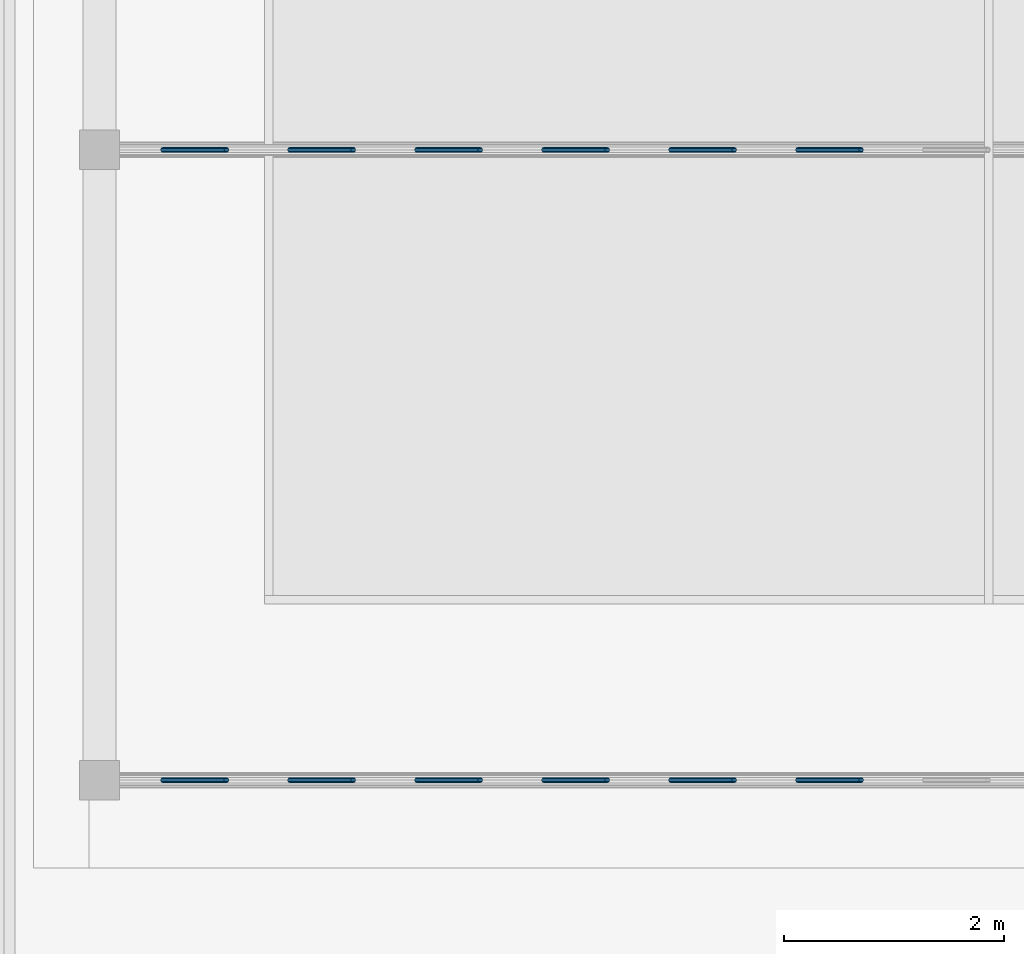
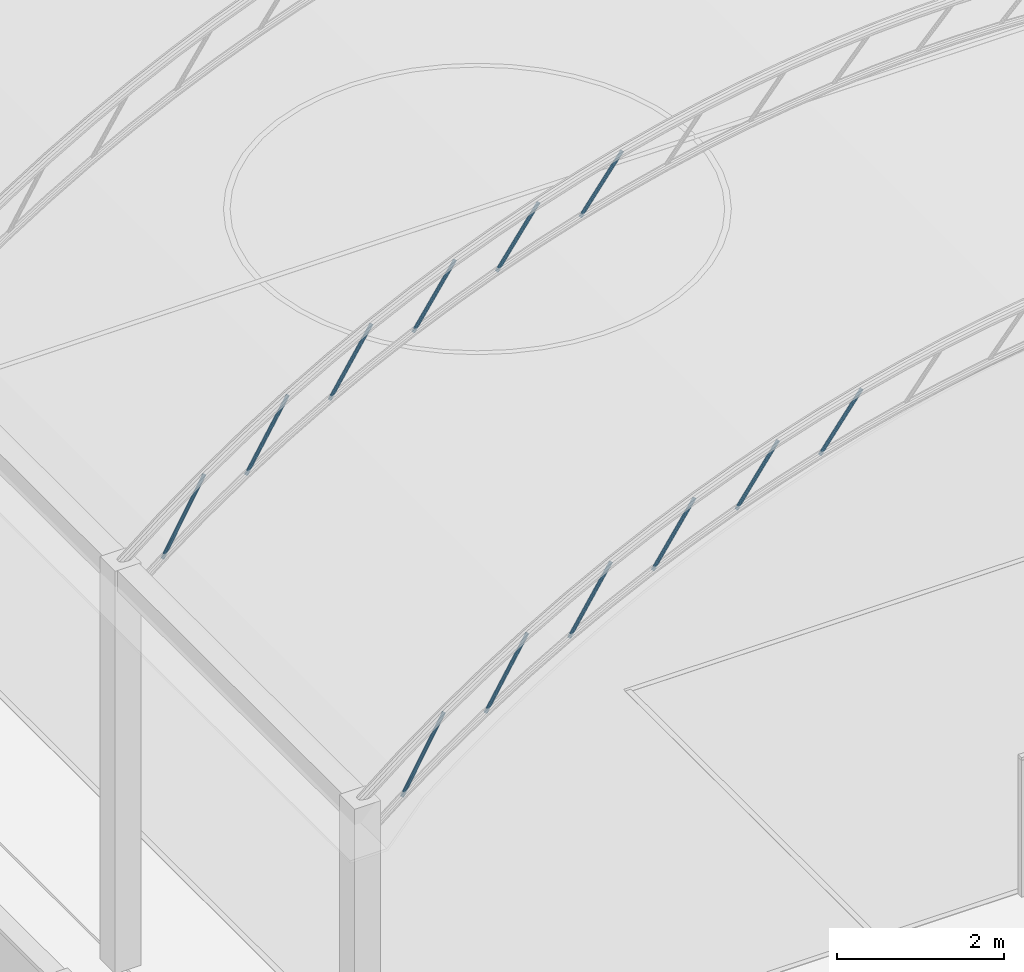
# One storey, part 16 of 177: 12 beams.
"""IFC4 building model written with IfcOpenShell, lengths in metres."""

import ifcopenshell
import ifcopenshell.guid

model = None  # the IFC model being written
_history = None  # IfcOwnerHistory: only IFC2X3 demands one
_inside = {}  # id of a spatial element -> (the spatial element, [elements in it])
_under = {}  # id of a project, library or spatial element -> (it, [spatial elements below it])
_declared = {}  # id of a project -> (the project, [libraries it declares])
_typed = {}  # id of a type object -> (the type object, [elements of that type])
_made_of = {}  # id of a material, layer set ... -> (it, [elements and type objects made of it])


def new_model(schema):
    """Start an empty IFC model of exactly this schema.

    Asked for "IFC4X3", IfcOpenShell would pick the latest addendum, in which some entities
    have other attributes; the version numbers below select the first issue.
    IFC2X3 requires an IfcOwnerHistory on every rooted entity: one is made here for all.
    """
    global model, _history
    if schema == "IFC4X3":
        model = ifcopenshell.file(schema_version=(4, 3, 0, 0))
    else:
        model = ifcopenshell.file(schema=schema)
    _inside.clear()
    _under.clear()
    _declared.clear()
    _typed.clear()
    _made_of.clear()
    _history = None
    if model.schema == "IFC2X3":
        org = make("IfcOrganization", Name="unknown")
        user = make(
            "IfcPersonAndOrganization",
            ThePerson=make("IfcPerson", FamilyName="unknown"),
            TheOrganization=org,
        )
        app = make(
            "IfcApplication",
            ApplicationDeveloper=org,
            Version="unknown",
            ApplicationFullName="unknown",
            ApplicationIdentifier="unknown",
        )
        _history = make(
            "IfcOwnerHistory",
            OwningUser=user,
            OwningApplication=app,
            ChangeAction="ADDED",
            CreationDate=0,
        )
    return model


def make(cls, **values):
    """One entity of the class cls with the attributes given. An attribute that is None is left unset."""
    return model.create_entity(
        cls, **{name: value for name, value in values.items() if value is not None}
    )


def rooted(cls, **values):
    """An entity with a GlobalId (a new one), such as an element, a storey or a relation."""
    return make(cls, GlobalId=ifcopenshell.guid.new(), OwnerHistory=_history, **values)


def si_unit(unit_type, name, prefix=None):
    """IfcSIUnit, for example si_unit("LENGTHUNIT", "METRE", prefix="MILLI")."""
    return make("IfcSIUnit", UnitType=unit_type, Prefix=prefix, Name=name)


def assignment(units):
    """IfcUnitAssignment: the units of a project."""
    return None if units is None else make("IfcUnitAssignment", Units=units)


def point(xyz):
    """IfcCartesianPoint."""
    return None if xyz is None else make("IfcCartesianPoint", Coordinates=xyz)


def direction(xyz):
    """IfcDirection."""
    return None if xyz is None else make("IfcDirection", DirectionRatios=xyz)


def frame(location, z_axis=None, x_axis=None):
    """IfcAxis2Placement3D, a coordinate frame: its origin and axes. An axis left out is left unset."""
    return make(
        "IfcAxis2Placement3D",
        Location=point(location),
        Axis=direction(z_axis),
        RefDirection=direction(x_axis),
    )


def origin():
    """The frame at (0, 0, 0) with its axes left unset."""
    return frame((0.0, 0.0, 0.0))


def origin_with_axes():
    """The frame at (0, 0, 0) with the z axis (0, 0, 1) and the x axis (1, 0, 0) written out."""
    return frame((0.0, 0.0, 0.0), z_axis=(0.0, 0.0, 1.0), x_axis=(1.0, 0.0, 0.0))


def place(relative_to, where):
    """IfcLocalPlacement: puts the frame where relative to a parent placement (None: the world)."""
    return make(
        "IfcLocalPlacement", PlacementRelTo=relative_to, RelativePlacement=where
    )


def context(
    kind, dimensions, precision=None, world=None, true_north=None, identifier=None
):
    """IfcGeometricRepresentationContext, for example the 3D "Model" context."""
    return make(
        "IfcGeometricRepresentationContext",
        ContextIdentifier=identifier,
        ContextType=kind,
        CoordinateSpaceDimension=dimensions,
        Precision=precision,
        WorldCoordinateSystem=world,
        TrueNorth=true_north,
    )


def subcontext(parent, identifier, kind, view, scale=None):
    """IfcGeometricRepresentationSubContext, for example "Body" below "Model"."""
    return make(
        "IfcGeometricRepresentationSubContext",
        ContextIdentifier=identifier,
        ContextType=kind,
        ParentContext=parent,
        TargetScale=scale,
        TargetView=view,
    )


def project(units=None, contexts=None):
    """IfcProject with its units and contexts."""
    return rooted(
        "IfcProject",
        Name="project",
        RepresentationContexts=contexts,
        UnitsInContext=assignment(units),
    )


def spatial(cls, under=None, at=None, **own):
    """A site, building, storey or space (cls), placed at a placement, below another one or the project."""
    s = rooted(cls, ObjectPlacement=at, **own)
    if under is not None:
        _under.setdefault(under.id(), (under, []))[1].append(s)
    return s


def point_list(points):
    """IfcCartesianPointList2D or 3D."""
    cls = (
        "IfcCartesianPointList2D" if len(points[0]) == 2 else "IfcCartesianPointList3D"
    )
    return make(cls, CoordList=points)


def triangles(points, corners, closed=None, point_numbers=None):
    """IfcTriangulatedFaceSet: each triangle names its three corners, points numbered from 1."""
    return make(
        "IfcTriangulatedFaceSet",
        Coordinates=point_list(points),
        Closed=closed,
        CoordIndex=corners,
        PnIndex=point_numbers,
    )


def shape(context_of_items, identifier, shape_type, items):
    """IfcShapeRepresentation: the items that make up one representation, for example the "Body"."""
    return make(
        "IfcShapeRepresentation",
        ContextOfItems=context_of_items,
        RepresentationIdentifier=identifier,
        RepresentationType=shape_type,
        Items=items,
    )


def made_of(thing, what):
    """Note that an element or type object is made of a material, layer set ...; save() writes the relation."""
    if what is not None:
        _made_of.setdefault(what.id(), (what, []))[1].append(thing)
    return thing


def element(
    cls,
    number,
    at=None,
    inside=None,
    cuts=None,
    type_object=None,
    material=None,
    context=None,
    identifier="Body",
    shape_type=None,
    held_by="IfcProductDefinitionShape",
    body=None,
    shapes=None,
    **own,
):
    """One element of the class cls, such as IfcWall. Its Tag is "e" and its number.

    at: its placement. inside: the storey or other place that contains it. cuts: it is an
    opening in that element (IfcRelVoidsElement). A single representation is given by context,
    identifier, shape_type and body (its items); several are given by shapes. held_by: the class
    of the entity that holds the representations. save() writes the other relations.
    """
    e = rooted(cls, Tag="e%d" % number, ObjectPlacement=at, **own)
    if body is not None:
        shapes = [shape(context, identifier, shape_type, body)]
    if shapes is not None:
        e.Representation = make(held_by, Representations=shapes)
    if inside is not None:
        _inside.setdefault(inside.id(), (inside, []))[1].append(e)
    if cuts is not None:
        rooted(
            "IfcRelVoidsElement", RelatingBuildingElement=cuts, RelatedOpeningElement=e
        )
    if type_object is not None:
        _typed.setdefault(type_object.id(), (type_object, []))[1].append(e)
    return made_of(e, material)


def aggregate(whole, parts):
    """IfcRelAggregates: a whole, such as a stair, and the parts it consists of."""
    return rooted("IfcRelAggregates", RelatingObject=whole, RelatedObjects=parts)


def save(model, path):
    """Write the relations noted so far, then the file.

    IfcRelAggregates (storeys below a building ...), IfcRelContainedInSpatialStructure (elements
    in a storey), IfcRelDefinesByType, IfcRelAssociatesMaterial and IfcRelDeclares: one each for
    every whole, place, type object, material and project.
    """
    for whole, parts in _under.values():
        aggregate(whole, parts)
    for where, things in _inside.values():
        rooted(
            "IfcRelContainedInSpatialStructure",
            RelatedElements=things,
            RelatingStructure=where,
        )
    for kind, things in _typed.values():
        rooted("IfcRelDefinesByType", RelatedObjects=things, RelatingType=kind)
    for what, things in _made_of.values():
        rooted("IfcRelAssociatesMaterial", RelatedObjects=things, RelatingMaterial=what)
    for by, libraries in _declared.values():
        rooted("IfcRelDeclares", RelatingContext=by, RelatedDefinitions=libraries)
    model.write(path)


model = new_model("IFC4")

# Units and contexts
model_context = context("Model", 3, precision=1e-05, world=origin_with_axes())
body_context = subcontext(model_context, "Body", "Model", "MODEL_VIEW")
ifc_project = project(units=[si_unit("LENGTHUNIT", "METRE"), si_unit("AREAUNIT", "SQUARE_METRE"), si_unit("VOLUMEUNIT", "CUBIC_METRE"), si_unit("PLANEANGLEUNIT", "RADIAN")], contexts=[model_context])

# Site, building, storey
site_placement = place(None, origin_with_axes())
site = spatial("IfcSite", under=ifc_project, at=site_placement, Name="Predio Los Mangos - Morales, San Martín", CompositionType="ELEMENT")
building_placement = place(site_placement, origin())
building = spatial("IfcBuilding", under=site, at=building_placement, Name="Hogar de Refugio Temporal", CompositionType="ELEMENT")
storey_placement = place(building_placement, origin())
storey = spatial("IfcBuildingStorey", under=building, at=storey_placement, Name="NIVEL 1 (NPT +0.00)", CompositionType="ELEMENT", Elevation=0.0)

# Beams
beam_1_placement = place(storey_placement, origin())
element("IfcBeam", 1, at=beam_1_placement, inside=storey, Name="diag", ObjectType="Viga", PredefinedType="BEAM", context=body_context, shape_type="Tessellation", body=[
    triangles([(4.0666, 92.6217, 5.8202), (4.0586, 92.6125, 5.8247), (4.0557, 92.6, 5.8263), (4.0586, 92.5875, 5.8247), (4.0666, 92.5783, 5.8202), (4.0775, 92.575, 5.8141), (4.0884, 92.5783, 5.808), (4.0964, 92.5875, 5.8035), (4.0993, 92.6, 5.8018), (4.0964, 92.6125, 5.8035), (4.0884, 92.6217, 5.808), (4.0775, 92.625, 5.8141), (4.6441, 92.6217, 6.8469), (4.6361, 92.6125, 6.8514), (4.6332, 92.6, 6.8531), (4.6361, 92.5875, 6.8514), (4.6441, 92.5783, 6.8469), (4.655, 92.575, 6.8408), (4.6659, 92.5783, 6.8347), (4.6739, 92.5875, 6.8302), (4.6768, 92.6, 6.8286), (4.6739, 92.6125, 6.8302), (4.6659, 92.6217, 6.8347), (4.655, 92.625, 6.8408)], [[1, 13, 24], [1, 24, 12], [2, 14, 13], [2, 13, 1], [3, 15, 14], [3, 14, 2], [4, 16, 15], [4, 15, 3], [5, 17, 16], [5, 16, 4], [6, 18, 17], [6, 17, 5], [7, 19, 18], [7, 18, 6], [8, 20, 19], [8, 19, 7], [9, 21, 20], [9, 20, 8], [10, 22, 21], [10, 21, 9], [11, 23, 22], [11, 22, 10], [12, 24, 23], [12, 23, 11]]),
])
beam_2_placement = place(storey_placement, origin())
element("IfcBeam", 2, at=beam_2_placement, inside=storey, Name="diag", ObjectType="Viga", PredefinedType="BEAM", context=body_context, shape_type="Tessellation", body=[
    triangles([(5.2218, 92.6217, 6.6398), (5.2139, 92.6125, 6.6445), (5.2111, 92.6, 6.6462), (5.2139, 92.5875, 6.6445), (5.2218, 92.5783, 6.6398), (5.2325, 92.575, 6.6333), (5.2432, 92.5783, 6.6269), (5.2511, 92.5875, 6.6222), (5.2539, 92.6, 6.6205), (5.2511, 92.6125, 6.6222), (5.2432, 92.6217, 6.6269), (5.2325, 92.625, 6.6333), (5.7993, 92.6217, 7.6007), (5.7914, 92.6125, 7.6055), (5.7886, 92.6, 7.6072), (5.7914, 92.5875, 7.6055), (5.7993, 92.5783, 7.6007), (5.81, 92.575, 7.5943), (5.8207, 92.5783, 7.5879), (5.8286, 92.5875, 7.5832), (5.8314, 92.6, 7.5814), (5.8286, 92.6125, 7.5832), (5.8207, 92.6217, 7.5879), (5.81, 92.625, 7.5943)], [[1, 13, 24], [1, 24, 12], [2, 14, 13], [2, 13, 1], [3, 15, 14], [3, 14, 2], [4, 16, 15], [4, 15, 3], [5, 17, 16], [5, 16, 4], [6, 18, 17], [6, 17, 5], [7, 19, 18], [7, 18, 6], [8, 20, 19], [8, 19, 7], [9, 21, 20], [9, 20, 8], [10, 22, 21], [10, 21, 9], [11, 23, 22], [11, 22, 10], [12, 24, 23], [12, 23, 11]]),
])
beam_3_placement = place(storey_placement, origin())
element("IfcBeam", 3, at=beam_3_placement, inside=storey, Name="diag", ObjectType="Viga", PredefinedType="BEAM", context=body_context, shape_type="Tessellation", body=[
    triangles([(6.377, 92.6217, 7.3326), (6.3693, 92.6125, 7.3375), (6.3664, 92.6, 7.3393), (6.3693, 92.5875, 7.3375), (6.377, 92.5783, 7.3326), (6.3875, 92.575, 7.3259), (6.398, 92.5783, 7.3191), (6.4057, 92.5875, 7.3142), (6.4086, 92.6, 7.3124), (6.4057, 92.6125, 7.3142), (6.398, 92.6217, 7.3191), (6.3875, 92.625, 7.3259), (6.9545, 92.6217, 8.2366), (6.9468, 92.6125, 8.2415), (6.9439, 92.6, 8.2433), (6.9468, 92.5875, 8.2415), (6.9545, 92.5783, 8.2366), (6.965, 92.575, 8.2298), (6.9755, 92.5783, 8.2231), (6.9832, 92.5875, 8.2182), (6.9861, 92.6, 8.2164), (6.9832, 92.6125, 8.2182), (6.9755, 92.6217, 8.2231), (6.965, 92.625, 8.2298)], [[1, 13, 24], [1, 24, 12], [2, 14, 13], [2, 13, 1], [3, 15, 14], [3, 14, 2], [4, 16, 15], [4, 15, 3], [5, 17, 16], [5, 16, 4], [6, 18, 17], [6, 17, 5], [7, 19, 18], [7, 18, 6], [8, 20, 19], [8, 19, 7], [9, 21, 20], [9, 20, 8], [10, 22, 21], [10, 21, 9], [11, 23, 22], [11, 22, 10], [12, 24, 23], [12, 23, 11]]),
])
beam_4_placement = place(storey_placement, origin())
element("IfcBeam", 4, at=beam_4_placement, inside=storey, Name="diag", ObjectType="Viga", PredefinedType="BEAM", context=body_context, shape_type="Tessellation", body=[
    triangles([(7.5321, 92.6217, 7.9148), (7.5246, 92.6125, 7.9199), (7.5218, 92.6, 7.9218), (7.5246, 92.5875, 7.9199), (7.5321, 92.5783, 7.9148), (7.5425, 92.575, 7.9077), (7.5529, 92.5783, 7.9007), (7.5604, 92.5875, 7.8956), (7.5632, 92.6, 7.8937), (7.5604, 92.6125, 7.8956), (7.5529, 92.6217, 7.9007), (7.5425, 92.625, 7.9077), (8.1096, 92.6217, 8.7679), (8.1021, 92.6125, 8.7731), (8.0993, 92.6, 8.7749), (8.1021, 92.5875, 8.7731), (8.1096, 92.5783, 8.7679), (8.12, 92.575, 8.7609), (8.1304, 92.5783, 8.7539), (8.1379, 92.5875, 8.7488), (8.1407, 92.6, 8.7469), (8.1379, 92.6125, 8.7488), (8.1304, 92.6217, 8.7539), (8.12, 92.625, 8.7609)], [[1, 13, 24], [1, 24, 12], [2, 14, 13], [2, 13, 1], [3, 15, 14], [3, 14, 2], [4, 16, 15], [4, 15, 3], [5, 17, 16], [5, 16, 4], [6, 18, 17], [6, 17, 5], [7, 19, 18], [7, 18, 6], [8, 20, 19], [8, 19, 7], [9, 21, 20], [9, 20, 8], [10, 22, 21], [10, 21, 9], [11, 23, 22], [11, 22, 10], [12, 24, 23], [12, 23, 11]]),
])
beam_5_placement = place(storey_placement, origin())
element("IfcBeam", 5, at=beam_5_placement, inside=storey, Name="diag", ObjectType="Viga", PredefinedType="BEAM", context=body_context, shape_type="Tessellation", body=[
    triangles([(8.6873, 92.6217, 8.3978), (8.6799, 92.6125, 8.4031), (8.6772, 92.6, 8.405), (8.6799, 92.5875, 8.4031), (8.6873, 92.5783, 8.3978), (8.6975, 92.575, 8.3905), (8.7077, 92.5783, 8.3832), (8.7151, 92.5875, 8.3779), (8.7178, 92.6, 8.3759), (8.7151, 92.6125, 8.3779), (8.7077, 92.6217, 8.3832), (8.6975, 92.625, 8.3905), (9.2648, 92.6217, 9.2047), (9.2574, 92.6125, 9.21), (9.2547, 92.6, 9.2119), (9.2574, 92.5875, 9.21), (9.2648, 92.5783, 9.2047), (9.275, 92.575, 9.1974), (9.2852, 92.5783, 9.1901), (9.2926, 92.5875, 9.1848), (9.2953, 92.6, 9.1828), (9.2926, 92.6125, 9.1848), (9.2852, 92.6217, 9.1901), (9.275, 92.625, 9.1974)], [[1, 13, 24], [1, 24, 12], [2, 14, 13], [2, 13, 1], [3, 15, 14], [3, 14, 2], [4, 16, 15], [4, 15, 3], [5, 17, 16], [5, 16, 4], [6, 18, 17], [6, 17, 5], [7, 19, 18], [7, 18, 6], [8, 20, 19], [8, 19, 7], [9, 21, 20], [9, 20, 8], [10, 22, 21], [10, 21, 9], [11, 23, 22], [11, 22, 10], [12, 24, 23], [12, 23, 11]]),
])
beam_6_placement = place(storey_placement, origin())
element("IfcBeam", 6, at=beam_6_placement, inside=storey, Name="diag", ObjectType="Viga", PredefinedType="BEAM", context=body_context, shape_type="Tessellation", body=[
    triangles([(9.8425, 92.6217, 8.79), (9.8352, 92.6125, 8.7955), (9.8326, 92.6, 8.7975), (9.8352, 92.5875, 8.7955), (9.8425, 92.5783, 8.79), (9.8525, 92.575, 8.7824), (9.8625, 92.5783, 8.7749), (9.8698, 92.5875, 8.7694), (9.8724, 92.6, 8.7674), (9.8698, 92.6125, 8.7694), (9.8625, 92.6217, 8.7749), (9.8525, 92.625, 8.7824), (10.42, 92.6217, 9.5539), (10.4127, 92.6125, 9.5594), (10.4101, 92.6, 9.5614), (10.4127, 92.5875, 9.5594), (10.42, 92.5783, 9.5539), (10.43, 92.575, 9.5463), (10.44, 92.5783, 9.5388), (10.4473, 92.5875, 9.5333), (10.4499, 92.6, 9.5313), (10.4473, 92.6125, 9.5333), (10.44, 92.6217, 9.5388), (10.43, 92.625, 9.5463)], [[1, 13, 24], [1, 24, 12], [2, 14, 13], [2, 13, 1], [3, 15, 14], [3, 14, 2], [4, 16, 15], [4, 15, 3], [5, 17, 16], [5, 16, 4], [6, 18, 17], [6, 17, 5], [7, 19, 18], [7, 18, 6], [8, 20, 19], [8, 19, 7], [9, 21, 20], [9, 20, 8], [10, 22, 21], [10, 21, 9], [11, 23, 22], [11, 22, 10], [12, 24, 23], [12, 23, 11]]),
])
beam_7_placement = place(storey_placement, origin())
element("IfcBeam", 7, at=beam_7_placement, inside=storey, Name="diag", ObjectType="Viga", PredefinedType="BEAM", context=body_context, shape_type="Tessellation", body=[
    triangles([(4.0666, 98.355, 5.8202), (4.0586, 98.3458, 5.8247), (4.0557, 98.3333, 5.8263), (4.0586, 98.3208, 5.8247), (4.0666, 98.3117, 5.8202), (4.0775, 98.3083, 5.8141), (4.0884, 98.3117, 5.808), (4.0964, 98.3208, 5.8035), (4.0993, 98.3333, 5.8018), (4.0964, 98.3458, 5.8035), (4.0884, 98.355, 5.808), (4.0775, 98.3583, 5.8141), (4.6441, 98.355, 6.8469), (4.6361, 98.3458, 6.8514), (4.6332, 98.3333, 6.8531), (4.6361, 98.3208, 6.8514), (4.6441, 98.3117, 6.8469), (4.655, 98.3083, 6.8408), (4.6659, 98.3117, 6.8347), (4.6739, 98.3208, 6.8302), (4.6768, 98.3333, 6.8286), (4.6739, 98.3458, 6.8302), (4.6659, 98.355, 6.8347), (4.655, 98.3583, 6.8408)], [[1, 13, 24], [1, 24, 12], [2, 14, 13], [2, 13, 1], [3, 15, 14], [3, 14, 2], [4, 16, 15], [4, 15, 3], [5, 17, 16], [5, 16, 4], [6, 18, 17], [6, 17, 5], [7, 19, 18], [7, 18, 6], [8, 20, 19], [8, 19, 7], [9, 21, 20], [9, 20, 8], [10, 22, 21], [10, 21, 9], [11, 23, 22], [11, 22, 10], [12, 24, 23], [12, 23, 11]]),
])
beam_8_placement = place(storey_placement, origin())
element("IfcBeam", 8, at=beam_8_placement, inside=storey, Name="diag", ObjectType="Viga", PredefinedType="BEAM", context=body_context, shape_type="Tessellation", body=[
    triangles([(5.2218, 98.355, 6.6398), (5.2139, 98.3458, 6.6445), (5.2111, 98.3333, 6.6462), (5.2139, 98.3208, 6.6445), (5.2218, 98.3117, 6.6398), (5.2325, 98.3083, 6.6333), (5.2432, 98.3117, 6.6269), (5.2511, 98.3208, 6.6222), (5.2539, 98.3333, 6.6205), (5.2511, 98.3458, 6.6222), (5.2432, 98.355, 6.6269), (5.2325, 98.3583, 6.6333), (5.7993, 98.355, 7.6007), (5.7914, 98.3458, 7.6055), (5.7886, 98.3333, 7.6072), (5.7914, 98.3208, 7.6055), (5.7993, 98.3117, 7.6007), (5.81, 98.3083, 7.5943), (5.8207, 98.3117, 7.5879), (5.8286, 98.3208, 7.5832), (5.8314, 98.3333, 7.5814), (5.8286, 98.3458, 7.5832), (5.8207, 98.355, 7.5879), (5.81, 98.3583, 7.5943)], [[1, 13, 24], [1, 24, 12], [2, 14, 13], [2, 13, 1], [3, 15, 14], [3, 14, 2], [4, 16, 15], [4, 15, 3], [5, 17, 16], [5, 16, 4], [6, 18, 17], [6, 17, 5], [7, 19, 18], [7, 18, 6], [8, 20, 19], [8, 19, 7], [9, 21, 20], [9, 20, 8], [10, 22, 21], [10, 21, 9], [11, 23, 22], [11, 22, 10], [12, 24, 23], [12, 23, 11]]),
])
beam_9_placement = place(storey_placement, origin())
element("IfcBeam", 9, at=beam_9_placement, inside=storey, Name="diag", ObjectType="Viga", PredefinedType="BEAM", context=body_context, shape_type="Tessellation", body=[
    triangles([(6.377, 98.355, 7.3326), (6.3693, 98.3458, 7.3375), (6.3664, 98.3333, 7.3393), (6.3693, 98.3208, 7.3375), (6.377, 98.3117, 7.3326), (6.3875, 98.3083, 7.3259), (6.398, 98.3117, 7.3191), (6.4057, 98.3208, 7.3142), (6.4086, 98.3333, 7.3124), (6.4057, 98.3458, 7.3142), (6.398, 98.355, 7.3191), (6.3875, 98.3583, 7.3259), (6.9545, 98.355, 8.2366), (6.9468, 98.3458, 8.2415), (6.9439, 98.3333, 8.2433), (6.9468, 98.3208, 8.2415), (6.9545, 98.3117, 8.2366), (6.965, 98.3083, 8.2298), (6.9755, 98.3117, 8.2231), (6.9832, 98.3208, 8.2182), (6.9861, 98.3333, 8.2164), (6.9832, 98.3458, 8.2182), (6.9755, 98.355, 8.2231), (6.965, 98.3583, 8.2298)], [[1, 13, 24], [1, 24, 12], [2, 14, 13], [2, 13, 1], [3, 15, 14], [3, 14, 2], [4, 16, 15], [4, 15, 3], [5, 17, 16], [5, 16, 4], [6, 18, 17], [6, 17, 5], [7, 19, 18], [7, 18, 6], [8, 20, 19], [8, 19, 7], [9, 21, 20], [9, 20, 8], [10, 22, 21], [10, 21, 9], [11, 23, 22], [11, 22, 10], [12, 24, 23], [12, 23, 11]]),
])
beam_10_placement = place(storey_placement, origin())
element("IfcBeam", 10, at=beam_10_placement, inside=storey, Name="diag", ObjectType="Viga", PredefinedType="BEAM", context=body_context, shape_type="Tessellation", body=[
    triangles([(7.5321, 98.355, 7.9148), (7.5246, 98.3458, 7.9199), (7.5218, 98.3333, 7.9218), (7.5246, 98.3208, 7.9199), (7.5321, 98.3117, 7.9148), (7.5425, 98.3083, 7.9077), (7.5529, 98.3117, 7.9007), (7.5604, 98.3208, 7.8956), (7.5632, 98.3333, 7.8937), (7.5604, 98.3458, 7.8956), (7.5529, 98.355, 7.9007), (7.5425, 98.3583, 7.9077), (8.1096, 98.355, 8.7679), (8.1021, 98.3458, 8.7731), (8.0993, 98.3333, 8.7749), (8.1021, 98.3208, 8.7731), (8.1096, 98.3117, 8.7679), (8.12, 98.3083, 8.7609), (8.1304, 98.3117, 8.7539), (8.1379, 98.3208, 8.7488), (8.1407, 98.3333, 8.7469), (8.1379, 98.3458, 8.7488), (8.1304, 98.355, 8.7539), (8.12, 98.3583, 8.7609)], [[1, 13, 24], [1, 24, 12], [2, 14, 13], [2, 13, 1], [3, 15, 14], [3, 14, 2], [4, 16, 15], [4, 15, 3], [5, 17, 16], [5, 16, 4], [6, 18, 17], [6, 17, 5], [7, 19, 18], [7, 18, 6], [8, 20, 19], [8, 19, 7], [9, 21, 20], [9, 20, 8], [10, 22, 21], [10, 21, 9], [11, 23, 22], [11, 22, 10], [12, 24, 23], [12, 23, 11]]),
])
beam_11_placement = place(storey_placement, origin())
element("IfcBeam", 11, at=beam_11_placement, inside=storey, Name="diag", ObjectType="Viga", PredefinedType="BEAM", context=body_context, shape_type="Tessellation", body=[
    triangles([(8.6873, 98.355, 8.3978), (8.6799, 98.3458, 8.4031), (8.6772, 98.3333, 8.405), (8.6799, 98.3208, 8.4031), (8.6873, 98.3117, 8.3978), (8.6975, 98.3083, 8.3905), (8.7077, 98.3117, 8.3832), (8.7151, 98.3208, 8.3779), (8.7178, 98.3333, 8.3759), (8.7151, 98.3458, 8.3779), (8.7077, 98.355, 8.3832), (8.6975, 98.3583, 8.3905), (9.2648, 98.355, 9.2047), (9.2574, 98.3458, 9.21), (9.2547, 98.3333, 9.2119), (9.2574, 98.3208, 9.21), (9.2648, 98.3117, 9.2047), (9.275, 98.3083, 9.1974), (9.2852, 98.3117, 9.1901), (9.2926, 98.3208, 9.1848), (9.2953, 98.3333, 9.1828), (9.2926, 98.3458, 9.1848), (9.2852, 98.355, 9.1901), (9.275, 98.3583, 9.1974)], [[1, 13, 24], [1, 24, 12], [2, 14, 13], [2, 13, 1], [3, 15, 14], [3, 14, 2], [4, 16, 15], [4, 15, 3], [5, 17, 16], [5, 16, 4], [6, 18, 17], [6, 17, 5], [7, 19, 18], [7, 18, 6], [8, 20, 19], [8, 19, 7], [9, 21, 20], [9, 20, 8], [10, 22, 21], [10, 21, 9], [11, 23, 22], [11, 22, 10], [12, 24, 23], [12, 23, 11]]),
])
beam_12_placement = place(storey_placement, origin())
element("IfcBeam", 12, at=beam_12_placement, inside=storey, Name="diag", ObjectType="Viga", PredefinedType="BEAM", context=body_context, shape_type="Tessellation", body=[
    triangles([(9.8425, 98.355, 8.79), (9.8352, 98.3458, 8.7955), (9.8326, 98.3333, 8.7975), (9.8352, 98.3208, 8.7955), (9.8425, 98.3117, 8.79), (9.8525, 98.3083, 8.7824), (9.8625, 98.3117, 8.7749), (9.8698, 98.3208, 8.7694), (9.8724, 98.3333, 8.7674), (9.8698, 98.3458, 8.7694), (9.8625, 98.355, 8.7749), (9.8525, 98.3583, 8.7824), (10.42, 98.355, 9.5539), (10.4127, 98.3458, 9.5594), (10.4101, 98.3333, 9.5614), (10.4127, 98.3208, 9.5594), (10.42, 98.3117, 9.5539), (10.43, 98.3083, 9.5463), (10.44, 98.3117, 9.5388), (10.4473, 98.3208, 9.5333), (10.4499, 98.3333, 9.5313), (10.4473, 98.3458, 9.5333), (10.44, 98.355, 9.5388), (10.43, 98.3583, 9.5463)], [[1, 13, 24], [1, 24, 12], [2, 14, 13], [2, 13, 1], [3, 15, 14], [3, 14, 2], [4, 16, 15], [4, 15, 3], [5, 17, 16], [5, 16, 4], [6, 18, 17], [6, 17, 5], [7, 19, 18], [7, 18, 6], [8, 20, 19], [8, 19, 7], [9, 21, 20], [9, 20, 8], [10, 22, 21], [10, 21, 9], [11, 23, 22], [11, 22, 10], [12, 24, 23], [12, 23, 11]]),
])

save(model, "model.ifc")
